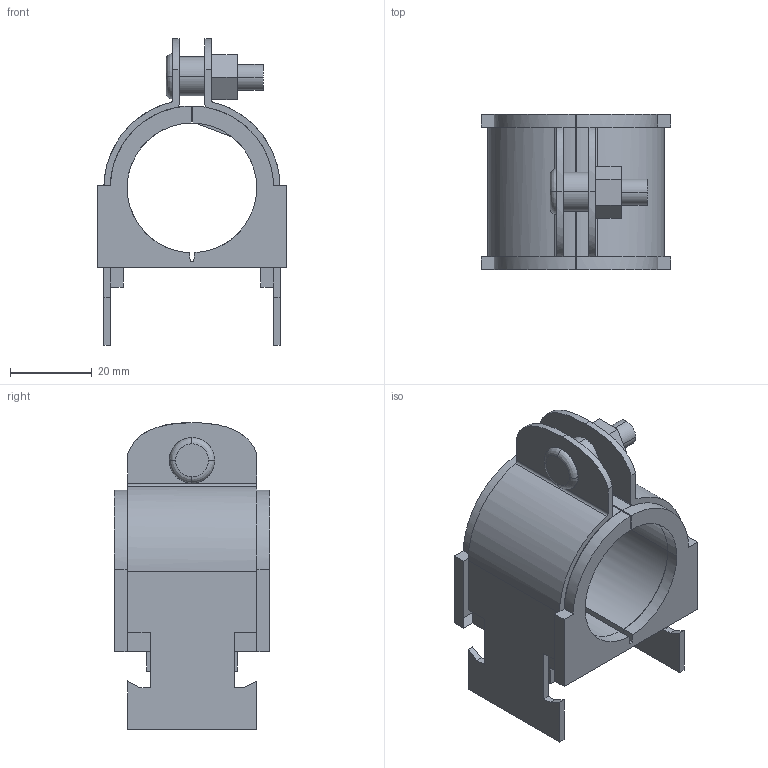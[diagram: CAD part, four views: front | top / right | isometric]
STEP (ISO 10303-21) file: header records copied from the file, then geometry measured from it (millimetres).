
FILE_DESCRIPTION(('TurboCAD Mac Pro'),'Build 980');
FILE_NAME('020T024.stp',' ',(''),(''),'ACIS Interop','IMSI','TurboCAD Mac Pro BY IMSI, INCORPORATED');
FILE_SCHEMA(('automotive_design'));
Length unit declared in the file: inch
Products named in the file (3): 1; 2; 3
Bounding box: 46.38 x 38.1 x 75.18 mm (x, y, z)
Volume: 34164.3 mm3; surface area: 23086.3 mm2
Topology: 3 solids, 3 shells, 151 faces, 400 edges, 258 vertices
Faces by surface type: plane 105, bspline 46
Entity records: 7222 total; most frequent: CARTESIAN_POINT 1784, ORIENTED_EDGE 800, DIRECTION 510, EDGE_CURVE 400, STYLED_ITEM 310, PRESENTATION_STYLE_ASSIGNMENT 310, COLOUR_RGB 310, LINE 286
